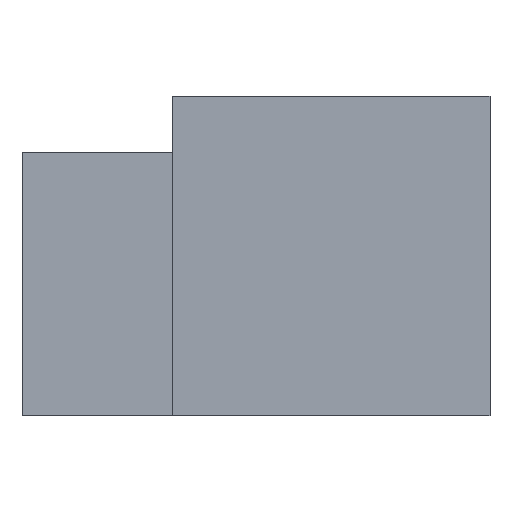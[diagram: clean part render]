
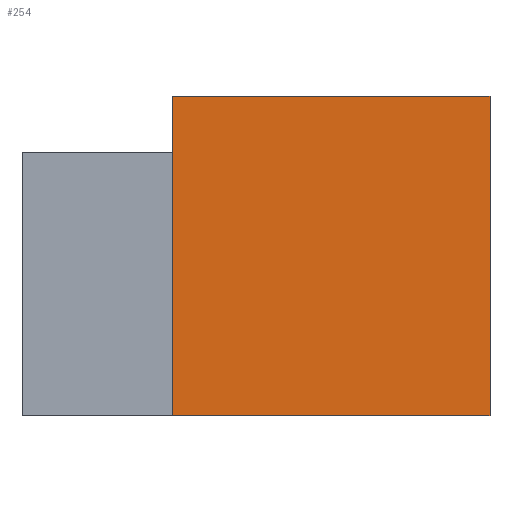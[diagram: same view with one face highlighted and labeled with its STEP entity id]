
A CAD part, front view. The second image highlights one B-rep face of the part: STEP entity #254.
In plain terms, the highlighted planar face has unit normal (0, -1, 0).
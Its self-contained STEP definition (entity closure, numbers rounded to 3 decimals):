
#32 = PLANE('',#33);
#33 = AXIS2_PLACEMENT_3D('',#34,#35,#36);
#34 = CARTESIAN_POINT('',(108.9,-180.,17.));
#35 = DIRECTION('',(0.,0.,1.));
#36 = DIRECTION('',(1.,0.,-0.));
#57 = VERTEX_POINT('',#58);
#58 = CARTESIAN_POINT('',(117.,-176.,17.));
#71 = PLANE('',#72);
#72 = AXIS2_PLACEMENT_3D('',#73,#74,#75);
#73 = CARTESIAN_POINT('',(117.,-200.,3.));
#74 = DIRECTION('',(1.,0.,-0.));
#75 = DIRECTION('',(0.,0.,1.));
#82 = EDGE_CURVE('',#83,#57,#85,.T.);
#83 = VERTEX_POINT('',#84);
#84 = CARTESIAN_POINT('',(133.9,-176.,17.));
#85 = SURFACE_CURVE('',#86,(#90,#96),.PCURVE_S1.);
#86 = LINE('',#87,#88);
#87 = CARTESIAN_POINT('',(-41.55,-176.,17.));
#88 = VECTOR('',#89,1.);
#89 = DIRECTION('',(-1.,0.,0.));
#90 = PCURVE('',#32,#91);
#91 = DEFINITIONAL_REPRESENTATION('',(#92),#95);
#92 = B_SPLINE_CURVE_WITH_KNOTS('',1,(#93,#94),.UNSPECIFIED.,.F.,.F.,(2,
    2),(-175.45,-158.55),.PIECEWISE_BEZIER_KNOTS.);
#93 = CARTESIAN_POINT('',(25.,4.));
#94 = CARTESIAN_POINT('',(8.1,4.));
#95 = ( GEOMETRIC_REPRESENTATION_CONTEXT(2) 
PARAMETRIC_REPRESENTATION_CONTEXT() REPRESENTATION_CONTEXT('2D SPACE',''
  ) );
#96 = PCURVE('',#97,#102);
#97 = PLANE('',#98);
#98 = AXIS2_PLACEMENT_3D('',#99,#100,#101);
#99 = CARTESIAN_POINT('',(-192.,-176.,4.));
#100 = DIRECTION('',(0.,1.,0.));
#101 = DIRECTION('',(1.,0.,0.));
#102 = DEFINITIONAL_REPRESENTATION('',(#103),#106);
#103 = B_SPLINE_CURVE_WITH_KNOTS('',1,(#104,#105),.UNSPECIFIED.,.F.,.F.,
  (2,2),(-175.45,-158.55),.PIECEWISE_BEZIER_KNOTS.);
#104 = CARTESIAN_POINT('',(325.9,-13.));
#105 = CARTESIAN_POINT('',(309.,-13.));
#106 = ( GEOMETRIC_REPRESENTATION_CONTEXT(2) 
PARAMETRIC_REPRESENTATION_CONTEXT() REPRESENTATION_CONTEXT('2D SPACE',''
  ) );
#122 = PLANE('',#123);
#123 = AXIS2_PLACEMENT_3D('',#124,#125,#126);
#124 = CARTESIAN_POINT('',(133.9,-180.,0.));
#125 = DIRECTION('',(1.,0.,-0.));
#126 = DIRECTION('',(0.,0.,1.));
#155 = PLANE('',#156);
#156 = AXIS2_PLACEMENT_3D('',#157,#158,#159);
#157 = CARTESIAN_POINT('',(108.9,-180.,0.));
#158 = DIRECTION('',(0.,0.,1.));
#159 = DIRECTION('',(1.,0.,-0.));
#212 = EDGE_CURVE('',#213,#83,#215,.T.);
#213 = VERTEX_POINT('',#214);
#214 = CARTESIAN_POINT('',(133.9,-176.,0.));
#215 = SURFACE_CURVE('',#216,(#220,#226),.PCURVE_S1.);
#216 = LINE('',#217,#218);
#217 = CARTESIAN_POINT('',(133.9,-176.,2.));
#218 = VECTOR('',#219,1.);
#219 = DIRECTION('',(0.,-0.,1.));
#220 = PCURVE('',#122,#221);
#221 = DEFINITIONAL_REPRESENTATION('',(#222),#225);
#222 = B_SPLINE_CURVE_WITH_KNOTS('',1,(#223,#224),.UNSPECIFIED.,.F.,.F.,
  (2,2),(-2.,15.),.PIECEWISE_BEZIER_KNOTS.);
#223 = CARTESIAN_POINT('',(0.,-4.));
#224 = CARTESIAN_POINT('',(17.,-4.));
#225 = ( GEOMETRIC_REPRESENTATION_CONTEXT(2) 
PARAMETRIC_REPRESENTATION_CONTEXT() REPRESENTATION_CONTEXT('2D SPACE',''
  ) );
#226 = PCURVE('',#97,#227);
#227 = DEFINITIONAL_REPRESENTATION('',(#228),#231);
#228 = B_SPLINE_CURVE_WITH_KNOTS('',1,(#229,#230),.UNSPECIFIED.,.F.,.F.,
  (2,2),(-2.,15.),.PIECEWISE_BEZIER_KNOTS.);
#229 = CARTESIAN_POINT('',(325.9,4.));
#230 = CARTESIAN_POINT('',(325.9,-13.));
#231 = ( GEOMETRIC_REPRESENTATION_CONTEXT(2) 
PARAMETRIC_REPRESENTATION_CONTEXT() REPRESENTATION_CONTEXT('2D SPACE',''
  ) );
#254 = ADVANCED_FACE('',(#255),#97,.F.);
#255 = FACE_BOUND('',#256,.F.);
#256 = EDGE_LOOP('',(#257,#258,#281,#302));
#257 = ORIENTED_EDGE('',*,*,#212,.F.);
#258 = ORIENTED_EDGE('',*,*,#259,.F.);
#259 = EDGE_CURVE('',#260,#213,#262,.T.);
#260 = VERTEX_POINT('',#261);
#261 = CARTESIAN_POINT('',(117.,-176.,0.));
#262 = SURFACE_CURVE('',#263,(#267,#274),.PCURVE_S1.);
#263 = LINE('',#264,#265);
#264 = CARTESIAN_POINT('',(-96.,-176.,0.));
#265 = VECTOR('',#266,1.);
#266 = DIRECTION('',(1.,0.,0.));
#267 = PCURVE('',#97,#268);
#268 = DEFINITIONAL_REPRESENTATION('',(#269),#273);
#269 = LINE('',#270,#271);
#270 = CARTESIAN_POINT('',(96.,4.));
#271 = VECTOR('',#272,1.);
#272 = DIRECTION('',(1.,0.));
#273 = ( GEOMETRIC_REPRESENTATION_CONTEXT(2) 
PARAMETRIC_REPRESENTATION_CONTEXT() REPRESENTATION_CONTEXT('2D SPACE',''
  ) );
#274 = PCURVE('',#155,#275);
#275 = DEFINITIONAL_REPRESENTATION('',(#276),#280);
#276 = LINE('',#277,#278);
#277 = CARTESIAN_POINT('',(-204.9,4.));
#278 = VECTOR('',#279,1.);
#279 = DIRECTION('',(1.,0.));
#280 = ( GEOMETRIC_REPRESENTATION_CONTEXT(2) 
PARAMETRIC_REPRESENTATION_CONTEXT() REPRESENTATION_CONTEXT('2D SPACE',''
  ) );
#281 = ORIENTED_EDGE('',*,*,#282,.T.);
#282 = EDGE_CURVE('',#260,#57,#283,.T.);
#283 = SURFACE_CURVE('',#284,(#288,#295),.PCURVE_S1.);
#284 = LINE('',#285,#286);
#285 = CARTESIAN_POINT('',(117.,-176.,0.));
#286 = VECTOR('',#287,1.);
#287 = DIRECTION('',(0.,0.,1.));
#288 = PCURVE('',#97,#289);
#289 = DEFINITIONAL_REPRESENTATION('',(#290),#294);
#290 = LINE('',#291,#292);
#291 = CARTESIAN_POINT('',(309.,4.));
#292 = VECTOR('',#293,1.);
#293 = DIRECTION('',(0.,-1.));
#294 = ( GEOMETRIC_REPRESENTATION_CONTEXT(2) 
PARAMETRIC_REPRESENTATION_CONTEXT() REPRESENTATION_CONTEXT('2D SPACE',''
  ) );
#295 = PCURVE('',#71,#296);
#296 = DEFINITIONAL_REPRESENTATION('',(#297),#301);
#297 = LINE('',#298,#299);
#298 = CARTESIAN_POINT('',(-3.,-24.));
#299 = VECTOR('',#300,1.);
#300 = DIRECTION('',(1.,0.));
#301 = ( GEOMETRIC_REPRESENTATION_CONTEXT(2) 
PARAMETRIC_REPRESENTATION_CONTEXT() REPRESENTATION_CONTEXT('2D SPACE',''
  ) );
#302 = ORIENTED_EDGE('',*,*,#82,.F.);
